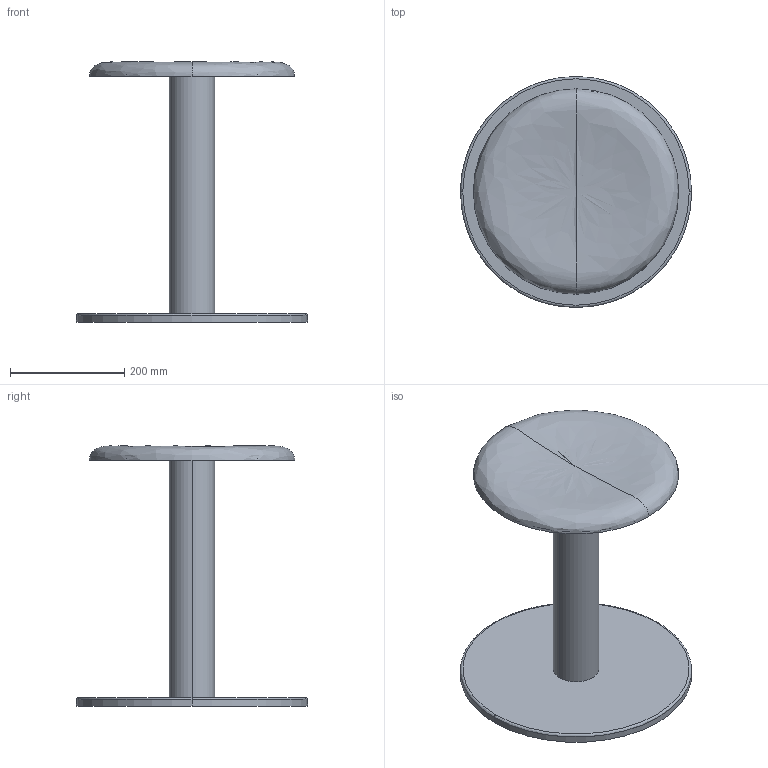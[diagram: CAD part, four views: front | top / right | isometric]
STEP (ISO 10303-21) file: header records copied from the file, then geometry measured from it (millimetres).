
FILE_DESCRIPTION (( 'STEP AP214' ), '1' );
FILE_NAME ('Coupe Stool.STEP', '2026-06-18T13:31:21', ( '' ), ( '' ), 'SwSTEP 2.0', 'SolidWorks 2025', '' );
FILE_SCHEMA (( 'AUTOMOTIVE_DESIGN' ));
Length unit declared in the file: millimetre
Products named in the file (1): Coupe Stool
Bounding box: 405 x 405 x 456.02 mm (x, y, z)
Volume: 2966362.7 mm3; surface area: 963185 mm2
Topology: 1 solids, 3 shells, 33 faces, 64 edges, 39 vertices
Faces by surface type: cylinder 14, bspline 10, plane 9
Entity records: 1129 total; most frequent: CARTESIAN_POINT 481, DIRECTION 132, ORIENTED_EDGE 124, AXIS2_PLACEMENT_3D 66, EDGE_CURVE 62, CIRCLE 42, VERTEX_POINT 39, EDGE_LOOP 39
